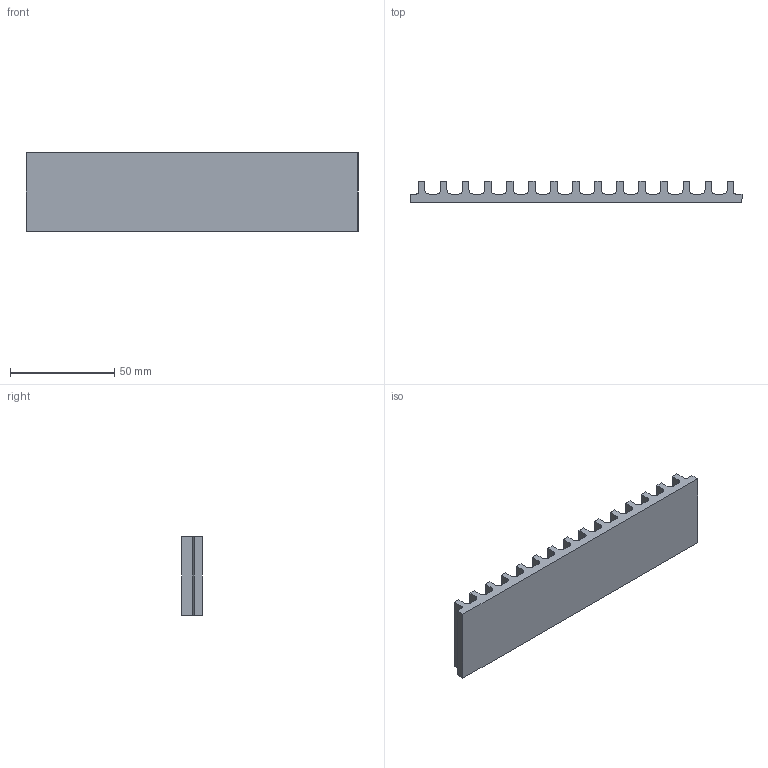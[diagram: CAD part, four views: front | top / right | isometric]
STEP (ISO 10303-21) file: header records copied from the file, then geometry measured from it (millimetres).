
FILE_DESCRIPTION (( 'STEP AP214' ), '1' );
FILE_NAME ('PR310.STEP', '2004-04-30T11:52:38', ( '' ), ( '' ), 'SwSTEP 2.0', 'SolidWorks 2002349', '' );
FILE_SCHEMA (( 'AUTOMOTIVE_DESIGN' ));
Length unit declared in the file: millimetre
Products named in the file (1): PR310
Bounding box: 159 x 10 x 37.5 mm (x, y, z)
Volume: 34893.4 mm3; surface area: 19902.5 mm2
Topology: 1 solids, 1 shells, 96 faces, 282 edges, 188 vertices
Faces by surface type: plane 66, cylinder 30
Entity records: 3209 total; most frequent: CARTESIAN_POINT 567, ORIENTED_EDGE 564, DIRECTION 536, EDGE_CURVE 282, LINE 222, VECTOR 222, VERTEX_POINT 188, AXIS2_PLACEMENT_3D 157
